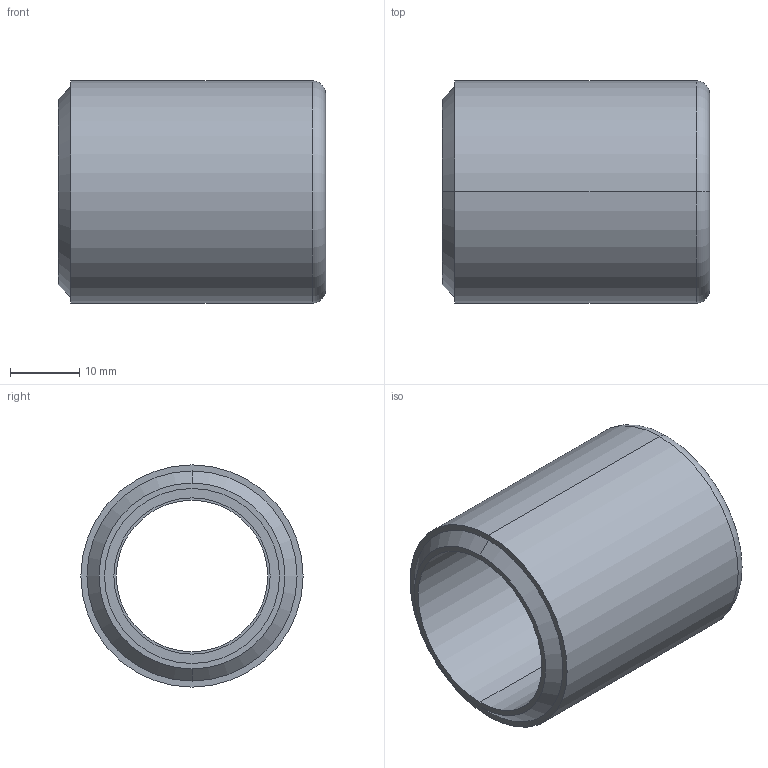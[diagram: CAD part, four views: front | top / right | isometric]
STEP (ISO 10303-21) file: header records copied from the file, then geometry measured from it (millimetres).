
FILE_DESCRIPTION (( 'STEP AP214' ), '1' );
FILE_NAME ('CR-INFV-04-05.STEP', '2020-12-10T16:57:47', ( '' ), ( '' ), 'SwSTEP 2.0', 'SolidWorks 2019', '' );
FILE_SCHEMA (( 'AUTOMOTIVE_DESIGN' ));
Length unit declared in the file: inch
Products named in the file (1): CR-INFV-04-05
Bounding box: 38.46 x 31.98 x 31.98 mm (x, y, z)
Volume: 13384.9 mm3; surface area: 7401.8 mm2
Topology: 1 solids, 1 shells, 20 faces, 40 edges, 26 vertices
Faces by surface type: cylinder 10, plane 6, cone 2, torus 2
Entity records: 840 total; most frequent: DIRECTION 110, CARTESIAN_POINT 87, ORIENTED_EDGE 80, AXIS2_PLACEMENT_3D 49, EDGE_CURVE 40, CIRCLE 28, EDGE_LOOP 26, VERTEX_POINT 26
